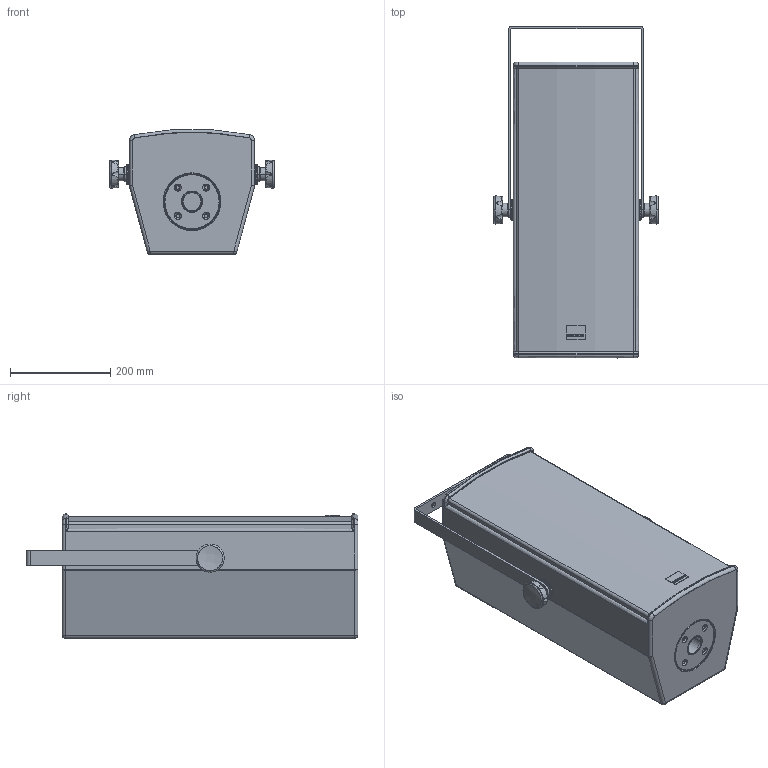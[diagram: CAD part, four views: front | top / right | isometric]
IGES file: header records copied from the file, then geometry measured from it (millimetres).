
Start section: SolidWorks IGES file using analytic representation for surfaces
Global section: file name: C:\Dokumente und Einstellungen\PC_Fabian\Desktop\3d_Dateien_Homepage\A-Serie\SEEBURG_A3_Bracket-ver.IGS; native system: SolidWorks 2009; preprocessor: SolidWorks 2009; author: PC_Fabian; date: 120927.153807; units: millimetre
Bounding box: 328 x 662 x 248.75 mm (x, y, z)
Surface area: 1650870.1 mm2 (no closed solid volume)
Topology: 0 solids, 0 shells, 541 faces, 7953 edges, 7951 vertices
Faces by surface type: revolution 292, bspline 249
